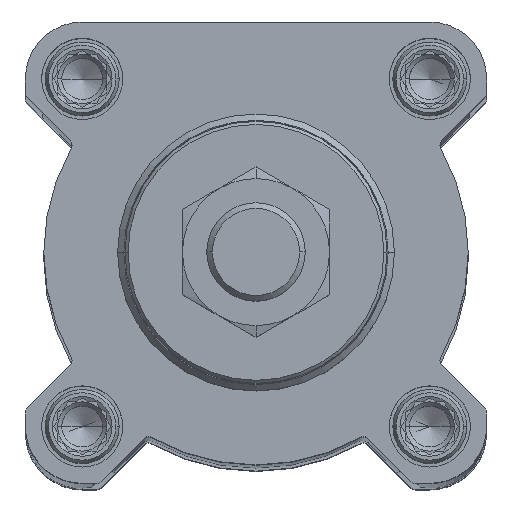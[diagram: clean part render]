
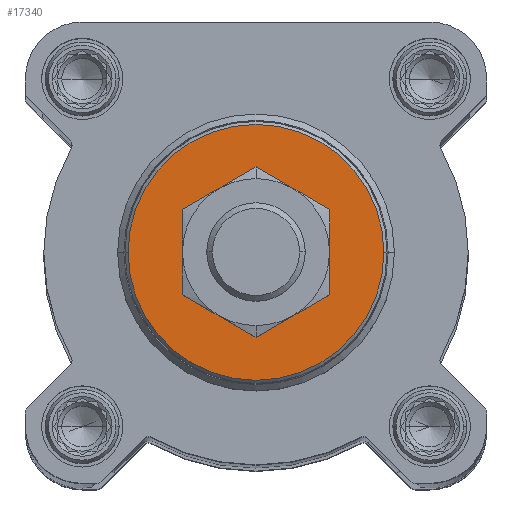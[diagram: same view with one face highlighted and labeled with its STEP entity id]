
A CAD part, top view. The second image highlights one B-rep face of the part: STEP entity #17340.
In plain terms, the highlighted planar face has unit normal (0, 0, 1).
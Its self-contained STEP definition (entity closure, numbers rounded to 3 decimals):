
#54 = VERTEX_POINT ( 'NONE', #8211 ) ;
#849 = VERTEX_POINT ( 'NONE', #5104 ) ;
#2072 = DIRECTION ( 'NONE',  ( 0., 0., -1. ) ) ;
#2125 = CARTESIAN_POINT ( 'NONE',  ( -10., 0., 27. ) ) ;
#2575 = CARTESIAN_POINT ( 'NONE',  ( 0., 0., 27. ) ) ;
#2674 = DIRECTION ( 'NONE',  ( 0., 0., -1. ) ) ;
#3478 = CIRCLE ( 'NONE', #16368, 20.799 ) ;
#3979 = EDGE_CURVE ( 'NONE', #12032, #4451, #18036, .T. ) ;
#4451 = VERTEX_POINT ( 'NONE', #2125 ) ;
#4466 = DIRECTION ( 'NONE',  ( -1., 0., 0. ) ) ;
#5021 = CARTESIAN_POINT ( 'NONE',  ( 0., 0., 27. ) ) ;
#5104 = CARTESIAN_POINT ( 'NONE',  ( 20.799, 0., 27. ) ) ;
#5640 = AXIS2_PLACEMENT_3D ( 'NONE', #5021, #11192, #6632 ) ;
#5709 = DIRECTION ( 'NONE',  ( -1., 0., 0. ) ) ;
#5779 = CARTESIAN_POINT ( 'NONE',  ( 0., 0., 27. ) ) ;
#5848 = ORIENTED_EDGE ( 'NONE', *, *, #9917, .F. ) ;
#6030 = AXIS2_PLACEMENT_3D ( 'NONE', #13263, #2072, #14393 ) ;
#6632 = DIRECTION ( 'NONE',  ( 0., -1., 0. ) ) ;
#6774 = EDGE_LOOP ( 'NONE', ( #16647, #17660 ) ) ;
#7212 = DIRECTION ( 'NONE',  ( -1., 0., 0. ) ) ;
#7220 = DIRECTION ( 'NONE',  ( 0., 0., -1. ) ) ;
#8154 = FACE_BOUND ( 'NONE', #6774, .T. ) ;
#8211 = CARTESIAN_POINT ( 'NONE',  ( -20.799, 0., 27. ) ) ;
#8294 = EDGE_LOOP ( 'NONE', ( #5848, #19764 ) ) ;
#8347 = PLANE ( 'NONE',  #5640 ) ;
#9023 = DIRECTION ( 'NONE',  ( 0., 0., -1. ) ) ;
#9797 = EDGE_CURVE ( 'NONE', #4451, #12032, #18951, .T. ) ;
#9917 = EDGE_CURVE ( 'NONE', #54, #849, #3478, .T. ) ;
#11121 = EDGE_CURVE ( 'NONE', #849, #54, #19951, .T. ) ;
#11192 = DIRECTION ( 'NONE',  ( 0., 0., -1. ) ) ;
#12032 = VERTEX_POINT ( 'NONE', #13927 ) ;
#13079 = AXIS2_PLACEMENT_3D ( 'NONE', #2575, #2674, #7212 ) ;
#13186 = CARTESIAN_POINT ( 'NONE',  ( 0., 0., 27. ) ) ;
#13263 = CARTESIAN_POINT ( 'NONE',  ( 0., 0., 27. ) ) ;
#13927 = CARTESIAN_POINT ( 'NONE',  ( 10., 0., 27. ) ) ;
#14393 = DIRECTION ( 'NONE',  ( -1., 0., 0. ) ) ;
#16368 = AXIS2_PLACEMENT_3D ( 'NONE', #5779, #9023, #4466 ) ;
#16647 = ORIENTED_EDGE ( 'NONE', *, *, #9797, .T. ) ;
#17042 = AXIS2_PLACEMENT_3D ( 'NONE', #13186, #7220, #5709 ) ;
#17340 = ADVANCED_FACE ( 'NONE', ( #17732, #8154 ), #8347, .F. ) ;
#17660 = ORIENTED_EDGE ( 'NONE', *, *, #3979, .T. ) ;
#17732 = FACE_OUTER_BOUND ( 'NONE', #8294, .T. ) ;
#18036 = CIRCLE ( 'NONE', #13079, 10. ) ;
#18951 = CIRCLE ( 'NONE', #6030, 10. ) ;
#19764 = ORIENTED_EDGE ( 'NONE', *, *, #11121, .F. ) ;
#19951 = CIRCLE ( 'NONE', #17042, 20.799 ) ;
